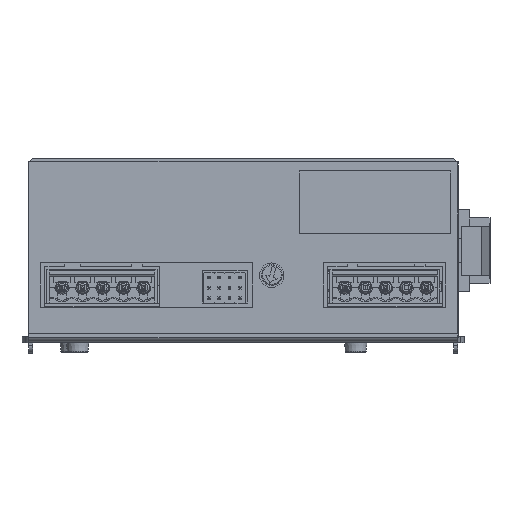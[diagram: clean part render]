
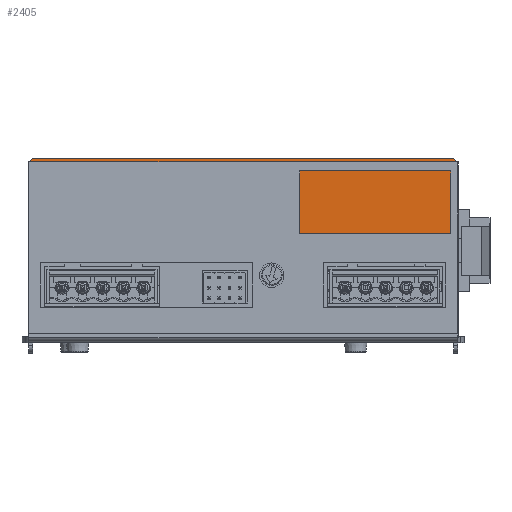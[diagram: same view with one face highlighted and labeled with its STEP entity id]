
A CAD part, front view. The second image highlights one B-rep face of the part: STEP entity #2405.
In plain terms, the highlighted planar face has unit normal (0, -1, 0).
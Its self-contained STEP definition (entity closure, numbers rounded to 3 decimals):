
#2271=CARTESIAN_POINT('',(0.,-50.25,22.518));
#2272=DIRECTION('',(0.0,1.0,0.0));
#2273=DIRECTION('',(1.0,0.0,0.0));
#2274=AXIS2_PLACEMENT_3D('',#2271,#2272,#2273);
#2275=PLANE('',#2274);
#2276=CARTESIAN_POINT('',(51.5,-50.25,45.));
#2277=VERTEX_POINT('',#2276);
#2278=CARTESIAN_POINT('',(52.5,-50.25,44.));
#2279=VERTEX_POINT('',#2278);
#2280=CARTESIAN_POINT('',(51.5,-50.25,45.));
#2281=DIRECTION('',(0.707,0.0,-0.707));
#2282=VECTOR('',#2281,1.414);
#2283=LINE('',#2280,#2282);
#2284=EDGE_CURVE('',#2277,#2279,#2283,.T.);
#2285=ORIENTED_EDGE('',*,*,#2284,.F.);
#2286=CARTESIAN_POINT('',(-51.5,-50.25,45.));
#2287=VERTEX_POINT('',#2286);
#2288=CARTESIAN_POINT('',(-51.5,-50.25,45.));
#2289=DIRECTION('',(1.0,0.0,0.0));
#2290=VECTOR('',#2289,103.0);
#2291=LINE('',#2288,#2290);
#2292=EDGE_CURVE('',#2287,#2277,#2291,.T.);
#2293=ORIENTED_EDGE('',*,*,#2292,.F.);
#2294=CARTESIAN_POINT('',(-52.5,-50.25,44.));
#2295=VERTEX_POINT('',#2294);
#2296=CARTESIAN_POINT('',(-52.5,-50.25,44.));
#2297=DIRECTION('',(0.707,0.0,0.707));
#2298=VECTOR('',#2297,1.414);
#2299=LINE('',#2296,#2298);
#2300=EDGE_CURVE('',#2295,#2287,#2299,.T.);
#2301=ORIENTED_EDGE('',*,*,#2300,.F.);
#2302=CARTESIAN_POINT('',(-52.5,-50.25,2.25));
#2303=VERTEX_POINT('',#2302);
#2304=CARTESIAN_POINT('',(-52.5,-50.25,2.25));
#2305=DIRECTION('',(0.0,0.0,1.0));
#2306=VECTOR('',#2305,41.75);
#2307=LINE('',#2304,#2306);
#2308=EDGE_CURVE('',#2303,#2295,#2307,.T.);
#2309=ORIENTED_EDGE('',*,*,#2308,.F.);
#2310=CARTESIAN_POINT('',(52.5,-50.25,2.25));
#2311=VERTEX_POINT('',#2310);
#2312=CARTESIAN_POINT('',(-52.5,-50.25,2.25));
#2313=DIRECTION('',(1.0,0.0,0.0));
#2314=VECTOR('',#2313,105.0);
#2315=LINE('',#2312,#2314);
#2316=EDGE_CURVE('',#2303,#2311,#2315,.T.);
#2317=ORIENTED_EDGE('',*,*,#2316,.T.);
#2318=CARTESIAN_POINT('',(52.5,-50.25,44.));
#2319=DIRECTION('',(0.0,0.0,-1.0));
#2320=VECTOR('',#2319,41.75);
#2321=LINE('',#2318,#2320);
#2322=EDGE_CURVE('',#2279,#2311,#2321,.T.);
#2323=ORIENTED_EDGE('',*,*,#2322,.F.);
#2324=EDGE_LOOP('',(#2285,#2293,#2301,#2309,#2317,#2323));
#2325=FACE_OUTER_BOUND('',#2324,.T.);
#2326=CARTESIAN_POINT('',(19.6,-50.25,8.6));
#2327=VERTEX_POINT('',#2326);
#2328=CARTESIAN_POINT('',(19.6,-50.25,19.6));
#2329=VERTEX_POINT('',#2328);
#2330=CARTESIAN_POINT('',(19.6,-50.25,8.6));
#2331=DIRECTION('',(0.0,0.0,1.0));
#2332=VECTOR('',#2331,11.);
#2333=LINE('',#2330,#2332);
#2334=EDGE_CURVE('',#2327,#2329,#2333,.T.);
#2335=ORIENTED_EDGE('',*,*,#2334,.T.);
#2336=CARTESIAN_POINT('',(49.6,-50.25,19.6));
#2337=VERTEX_POINT('',#2336);
#2338=CARTESIAN_POINT('',(19.6,-50.25,19.6));
#2339=DIRECTION('',(1.0,0.0,0.0));
#2340=VECTOR('',#2339,30.);
#2341=LINE('',#2338,#2340);
#2342=EDGE_CURVE('',#2329,#2337,#2341,.T.);
#2343=ORIENTED_EDGE('',*,*,#2342,.T.);
#2344=CARTESIAN_POINT('',(49.6,-50.25,8.6));
#2345=VERTEX_POINT('',#2344);
#2346=CARTESIAN_POINT('',(49.6,-50.25,19.6));
#2347=DIRECTION('',(0.0,0.0,-1.0));
#2348=VECTOR('',#2347,11.0);
#2349=LINE('',#2346,#2348);
#2350=EDGE_CURVE('',#2337,#2345,#2349,.T.);
#2351=ORIENTED_EDGE('',*,*,#2350,.T.);
#2352=CARTESIAN_POINT('',(49.6,-50.25,8.6));
#2353=DIRECTION('',(-1.0,0.0,0.0));
#2354=VECTOR('',#2353,30.);
#2355=LINE('',#2352,#2354);
#2356=EDGE_CURVE('',#2345,#2327,#2355,.T.);
#2357=ORIENTED_EDGE('',*,*,#2356,.T.);
#2358=EDGE_LOOP('',(#2335,#2343,#2351,#2357));
#2359=FACE_BOUND('',#2358,.T.);
#2360=CARTESIAN_POINT('',(-49.6,-50.25,8.6));
#2361=VERTEX_POINT('',#2360);
#2362=CARTESIAN_POINT('',(-49.6,-50.25,19.6));
#2363=VERTEX_POINT('',#2362);
#2364=CARTESIAN_POINT('',(-49.6,-50.25,8.6));
#2365=DIRECTION('',(0.0,0.0,1.0));
#2366=VECTOR('',#2365,11.);
#2367=LINE('',#2364,#2366);
#2368=EDGE_CURVE('',#2361,#2363,#2367,.T.);
#2369=ORIENTED_EDGE('',*,*,#2368,.T.);
#2370=CARTESIAN_POINT('',(2.4,-50.25,19.6));
#2371=VERTEX_POINT('',#2370);
#2372=CARTESIAN_POINT('',(-49.6,-50.25,19.6));
#2373=DIRECTION('',(1.0,0.0,0.0));
#2374=VECTOR('',#2373,52.0);
#2375=LINE('',#2372,#2374);
#2376=EDGE_CURVE('',#2363,#2371,#2375,.T.);
#2377=ORIENTED_EDGE('',*,*,#2376,.T.);
#2378=CARTESIAN_POINT('',(2.4,-50.25,8.6));
#2379=VERTEX_POINT('',#2378);
#2380=CARTESIAN_POINT('',(2.4,-50.25,19.6));
#2381=DIRECTION('',(0.0,0.0,-1.0));
#2382=VECTOR('',#2381,11.);
#2383=LINE('',#2380,#2382);
#2384=EDGE_CURVE('',#2371,#2379,#2383,.T.);
#2385=ORIENTED_EDGE('',*,*,#2384,.T.);
#2386=CARTESIAN_POINT('',(2.4,-50.25,8.6));
#2387=DIRECTION('',(-1.0,0.0,0.0));
#2388=VECTOR('',#2387,52.0);
#2389=LINE('',#2386,#2388);
#2390=EDGE_CURVE('',#2379,#2361,#2389,.T.);
#2391=ORIENTED_EDGE('',*,*,#2390,.T.);
#2392=EDGE_LOOP('',(#2369,#2377,#2385,#2391));
#2393=FACE_BOUND('',#2392,.T.);
#2394=CARTESIAN_POINT('',(10.,-50.25,16.5));
#2395=VERTEX_POINT('',#2394);
#2396=CARTESIAN_POINT('',(7.,-50.25,16.5));
#2397=DIRECTION('',(0.0,1.0,0.0));
#2398=DIRECTION('',(1.0,0.0,0.0));
#2399=AXIS2_PLACEMENT_3D('',#2396,#2397,#2398);
#2400=CIRCLE('',#2399,3.0);
#2401=EDGE_CURVE('',#2395,#2395,#2400,.T.);
#2402=ORIENTED_EDGE('',*,*,#2401,.T.);
#2403=EDGE_LOOP('',(#2402));
#2404=FACE_BOUND('',#2403,.T.);
#2405=ADVANCED_FACE('',(#2325,#2359,#2393,#2404),#2275,.F.);
